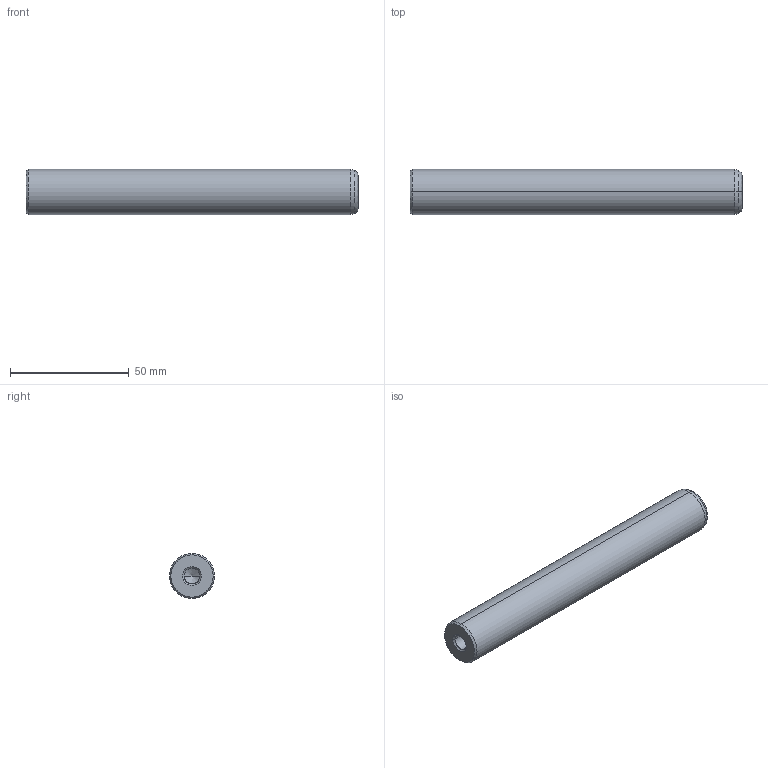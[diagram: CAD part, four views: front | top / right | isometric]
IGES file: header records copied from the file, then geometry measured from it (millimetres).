
Start section: START RECORD GO HERE.
Global section: file name: 720-19x140.igs; native system: DASSAULT SYSTEMES CATIA V5 R20 - www.3ds.com; preprocessor: CATIA Version 5 Release 20 ; author: Utente; organization: NB04-ASUS; date: 20210101.140753; units: millimetre
Bounding box: 140 x 19 x 19 mm (x, y, z)
Surface area: 9821.9 mm2 (no closed solid volume)
Topology: 0 solids, 0 shells, 22 faces, 120 edges, 116 vertices
Faces by surface type: revolution 20, plane 2
